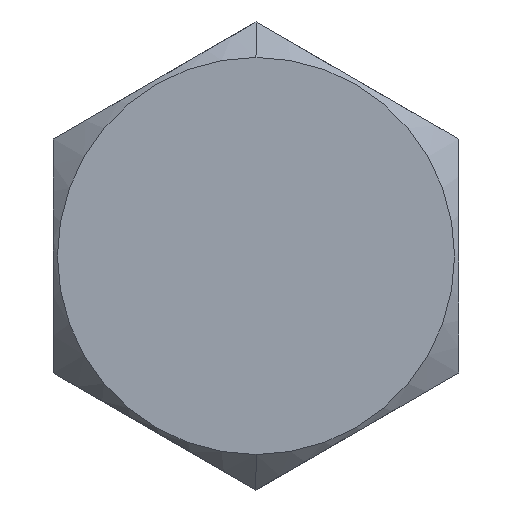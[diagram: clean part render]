
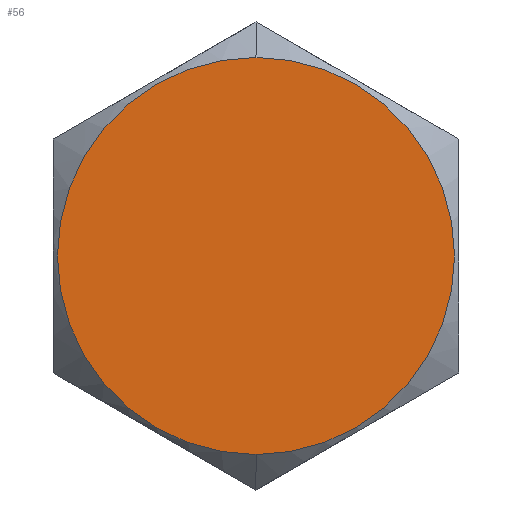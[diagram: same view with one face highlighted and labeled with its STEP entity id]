
A CAD part, left-side view. The second image highlights one B-rep face of the part: STEP entity #56.
In plain terms, the highlighted planar face has unit normal (-1, 0, 0).
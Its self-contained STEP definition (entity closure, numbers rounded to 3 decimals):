
#56 = ADVANCED_FACE ( 'NONE', ( #67 ), #814, .F. ) ;
#67 = FACE_OUTER_BOUND ( 'NONE', #790, .T. ) ;
#99 = DIRECTION ( 'NONE',  ( 0., 0., -1. ) ) ;
#118 = EDGE_CURVE ( 'NONE', #358, #174, #304, .T. ) ;
#134 = AXIS2_PLACEMENT_3D ( 'NONE', #735, #609, #99 ) ;
#174 = VERTEX_POINT ( 'NONE', #203 ) ;
#203 = CARTESIAN_POINT ( 'NONE',  ( 0., 0., -7.838 ) ) ;
#249 = DIRECTION ( 'NONE',  ( 1., 0., 0. ) ) ;
#304 = CIRCLE ( 'NONE', #436, 7.838 ) ;
#319 = DIRECTION ( 'NONE',  ( 0., 0., -1. ) ) ;
#325 = EDGE_CURVE ( 'NONE', #174, #358, #384, .T. ) ;
#358 = VERTEX_POINT ( 'NONE', #741 ) ;
#369 = DIRECTION ( 'NONE',  ( 1., 0., 0. ) ) ;
#384 = CIRCLE ( 'NONE', #134, 7.838 ) ;
#436 = AXIS2_PLACEMENT_3D ( 'NONE', #505, #369, #763 ) ;
#505 = CARTESIAN_POINT ( 'NONE',  ( 0., 0., 0. ) ) ;
#507 = ORIENTED_EDGE ( 'NONE', *, *, #118, .F. ) ;
#609 = DIRECTION ( 'NONE',  ( 1., 0., 0. ) ) ;
#638 = CARTESIAN_POINT ( 'NONE',  ( 0., 0., 0. ) ) ;
#729 = ORIENTED_EDGE ( 'NONE', *, *, #325, .F. ) ;
#735 = CARTESIAN_POINT ( 'NONE',  ( 0., 0., 0. ) ) ;
#741 = CARTESIAN_POINT ( 'NONE',  ( 0., 0., 7.838 ) ) ;
#763 = DIRECTION ( 'NONE',  ( 0., 0., -1. ) ) ;
#770 = AXIS2_PLACEMENT_3D ( 'NONE', #638, #249, #319 ) ;
#790 = EDGE_LOOP ( 'NONE', ( #729, #507 ) ) ;
#814 = PLANE ( 'NONE',  #770 ) ;
